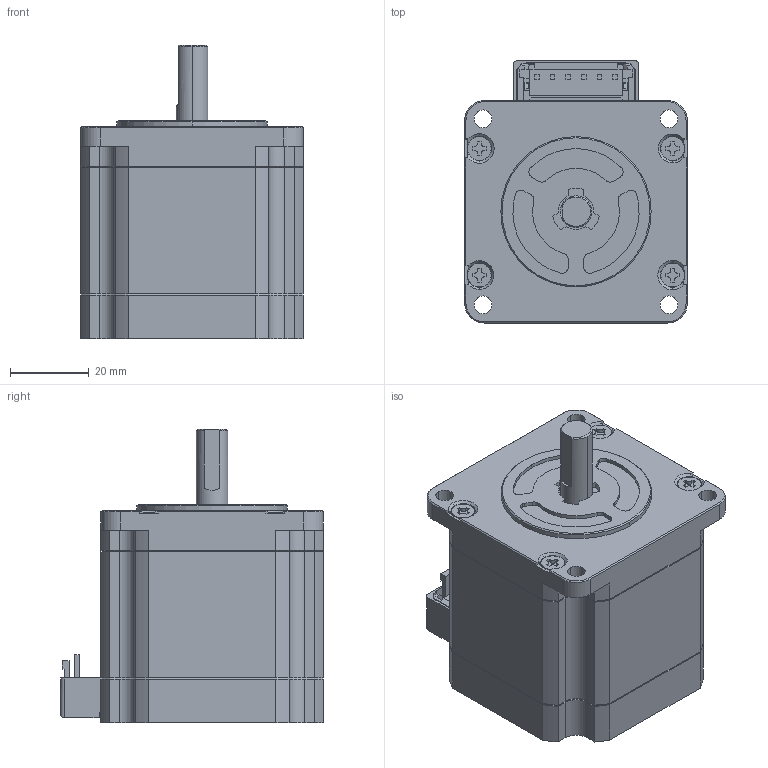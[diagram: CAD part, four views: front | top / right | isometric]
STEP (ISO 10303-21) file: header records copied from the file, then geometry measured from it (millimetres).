
FILE_DESCRIPTION (( 'STEP AP203' ), '1' );
FILE_NAME ('SM2562C10U41.STEP', '2021-05-07T07:35:35', ( '' ), ( '' ), 'SwSTEP 2.0', 'SolidWorks 2019', '' );
FILE_SCHEMA (( 'CONFIG_CONTROL_DESIGN' ));
Length unit declared in the file: millimetre
Products named in the file (10): Copy of OUTPUT SHAFT^01124245; Copy of TERMINAL^01124245; Copy of FRONT COVER^01124245; SM2562C10U41; Copy of INSULATOR_REAR^01124245_コネクタタイプ（10.1L）; Copy of SCREW^01124245; Copy of REAR COVER^01124245; Copy of SUBSTRATE^Copy of TERMINAL_01124245; Copy of STATOR^01124245; Copy of CONNECTOR^Copy of TERMINAL_01124245
Assembly tree (12 placements, depth 3):
  SM2562C10U41
    Copy of FRONT COVER^01124245
    Copy of STATOR^01124245
    Copy of INSULATOR_REAR^01124245_コネクタタイプ（10.1L）
    Copy of TERMINAL^01124245
      Copy of SUBSTRATE^Copy of TERMINAL_01124245
      Copy of CONNECTOR^Copy of TERMINAL_01124245
    Copy of REAR COVER^01124245
    Copy of OUTPUT SHAFT^01124245
    Copy of SCREW^01124245  x4
Bounding box: 56.4 x 66.6 x 74.4 mm (x, y, z)
Volume: 173734.1 mm3; surface area: 40460.4 mm2
Topology: 11 solids, 11 shells, 630 faces, 1636 edges, 1054 vertices
Faces by surface type: plane 402, cylinder 159, cone 69
Entity records: 18284 total; most frequent: CARTESIAN_POINT 3123, ORIENTED_EDGE 2924, DIRECTION 2916, EDGE_CURVE 1462, VECTOR 1066, LINE 1066, VERTEX_POINT 940, AXIS2_PLACEMENT_3D 925
